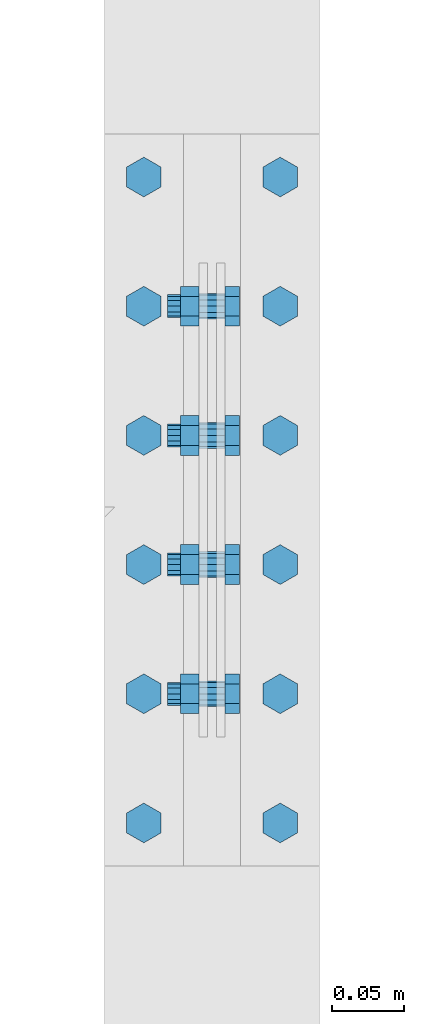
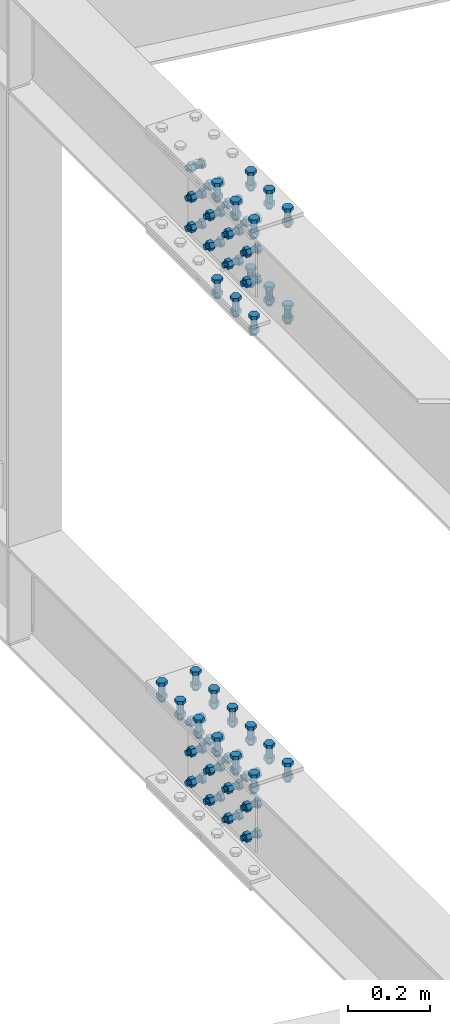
# One storey, part 289 of 3134: 12 mechanical fasteners, 2 elements without a shape of their own.
"""IFC2X3 building model written with IfcOpenShell, lengths in millimetres."""

from ifc_helpers import new_model, si_unit, frame, origin_with_axes, place, context, subcontext, project, spatial, faceted_brep, source, transform, mapped, material, type_object, element, aggregate, save


model = new_model("IFC2X3")

# Units and contexts
model_context = context("Model", 3, precision=1e-05, world=origin_with_axes())
body_context = subcontext(model_context, "Body", "Model", "MODEL_VIEW")
ifc_project = project(units=[si_unit("LENGTHUNIT", "METRE", prefix="MILLI"), si_unit("AREAUNIT", "SQUARE_METRE"), si_unit("VOLUMEUNIT", "CUBIC_METRE"), si_unit("MASSUNIT", "GRAM", prefix="KILO"), si_unit("TIMEUNIT", "SECOND"), si_unit("PLANEANGLEUNIT", "RADIAN"), si_unit("SOLIDANGLEUNIT", "STERADIAN"), si_unit("THERMODYNAMICTEMPERATUREUNIT", "DEGREE_CELSIUS"), si_unit("LUMINOUSINTENSITYUNIT", "LUMEN")], contexts=[model_context])

# Site, building, storey
site_placement = place(None, origin_with_axes())
site = spatial("IfcSite", under=ifc_project, at=site_placement, CompositionType="ELEMENT")
building_placement = place(site_placement, origin_with_axes())
building = spatial("IfcBuilding", under=site, at=building_placement, Name="Undefined", CompositionType="ELEMENT")
storey_placement = place(building_placement, origin_with_axes())
storey = spatial("IfcBuildingStorey", under=building, at=storey_placement, Name="Undefined", CompositionType="ELEMENT", Elevation=0.0)

# Assembly, mechanical fastener
assembly_1_placement = place(storey_placement, origin_with_axes())
assembly_1 = element("IfcElementAssembly", 1, at=assembly_1_placement, inside=storey, Name="300", AssemblyPlace="NOTDEFINED", PredefinedType="RIGID_FRAME")
ifc_material = material(Name="8.8")
mechanical_fastener_type = type_object("IfcMechanicalFastenerType", Name="Bolt assembly")
shared_shape_1 = source(origin_with_axes(), body_context, "Body", "Brep", [
    faceted_brep([(13.856406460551, -19.0499999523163, 0.0), (6.92820323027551, -19.0499999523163, 12.0), (-6.92820323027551, -19.0499999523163, 12.0), (-13.856406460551, -19.0499999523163, 1.69692038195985e-15), (-6.92820323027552, -19.0499999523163, -12.0), (6.9282032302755, -19.0499999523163, -12.0), (6.9282032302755, -9.04999995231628, -12.0), (-6.92820323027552, -9.04999995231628, -12.0), (-13.856406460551, -9.04999995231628, 1.69692038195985e-15), (-6.92820323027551, -9.04999995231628, 12.0), (6.92820323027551, -9.04999995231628, 12.0), (13.856406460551, -9.04999995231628, 0.0), (8.0, -9.04999995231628, 0.0), (6.92820323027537, -9.04999995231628, 4.00000000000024), (3.99999999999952, -9.04999995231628, 6.92820323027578), (-8.29068785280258e-13, -9.04999995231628, 8.0), (-4.00000000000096, -9.04999995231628, 6.92820323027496), (-6.9282032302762, -9.04999995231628, 3.99999999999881), (-8.0, -9.04999995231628, -1.65813757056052e-12), (-6.92820323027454, -9.04999995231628, -4.00000000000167), (-3.99999999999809, -9.04999995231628, -6.92820323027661), (2.47832457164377e-12, -9.04999995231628, -8.0), (4.00000000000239, -9.04999995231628, -6.92820323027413), (6.92820323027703, -9.04999995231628, -3.99999999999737), (6.92820323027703, 30.9500000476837, -3.99999999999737), (4.00000000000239, 30.9500000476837, -6.92820323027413), (2.47832457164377e-12, 30.9500000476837, -8.0), (-3.99999999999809, 30.9500000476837, -6.92820323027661), (-6.92820323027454, 30.9500000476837, -4.00000000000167), (-8.0, 30.9500000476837, -1.65813757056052e-12), (-6.9282032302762, 30.9500000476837, 3.99999999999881), (-4.00000000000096, 30.9500000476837, 6.92820323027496), (-8.29068785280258e-13, 30.9500000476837, 8.0), (3.99999999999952, 30.9500000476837, 6.92820323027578), (6.92820323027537, 30.9500000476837, 4.00000000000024), (8.0, 30.9500000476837, 0.0), (13.856406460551, 9.04999995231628, 0.0), (6.92820323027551, 9.04999995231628, 12.0), (-6.92820323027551, 9.04999995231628, 12.0), (-13.856406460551, 9.04999995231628, 1.69692038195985e-15), (-6.92820323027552, 9.04999995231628, -12.0), (6.9282032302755, 9.04999995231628, -12.0), (6.9282032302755, 22.0499999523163, -12.0), (-6.92820323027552, 22.0499999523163, -12.0), (-13.856406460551, 22.0499999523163, 1.69692038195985e-15), (-6.92820323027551, 22.0499999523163, 12.0), (6.92820323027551, 22.0499999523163, 12.0), (13.856406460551, 22.0499999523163, 0.0)], [[[0, 1, 2, 3, 4, 5]], [[6, 7, 8, 9, 10, 11]], [[0, 11, 10, 1]], [[1, 10, 9, 2]], [[2, 9, 8, 3]], [[3, 8, 7, 4]], [[4, 7, 6, 5]], [[5, 6, 11, 0]], [[12, 13, 14, 15, 16, 17, 18, 19, 20, 21, 22, 23]], [[24, 25, 26, 27, 28, 29, 30, 31, 32, 33, 34, 35]], [[12, 35, 34, 13]], [[13, 34, 33, 14]], [[14, 33, 32, 15]], [[15, 32, 31, 16]], [[16, 31, 30, 17]], [[17, 30, 29, 18]], [[18, 29, 28, 19]], [[19, 28, 27, 20]], [[20, 27, 26, 21]], [[21, 26, 25, 22]], [[22, 25, 24, 23]], [[23, 24, 35, 12]], [[36, 37, 38, 39, 40, 41]], [[42, 43, 44, 45, 46, 47]], [[36, 47, 46, 37]], [[37, 46, 45, 38]], [[38, 45, 44, 39]], [[39, 44, 43, 40]], [[40, 43, 42, 41]], [[41, 42, 47, 36]]]),
    faceted_brep([(9.0, -8.94999995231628, 0.0), (7.79422863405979, -8.94999995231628, 4.50000000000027), (4.49999999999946, -8.94999995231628, 7.79422863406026), (-9.3270238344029e-13, -8.94999995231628, 9.0), (-4.50000000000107, -8.94999995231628, 7.79422863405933), (-7.79422863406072, -8.94999995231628, 4.49999999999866), (-9.0, -8.94999995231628, -1.86540476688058e-12), (-7.79422863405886, -8.94999995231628, -4.50000000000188), (-4.49999999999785, -8.94999995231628, -7.79422863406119), (2.78811514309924e-12, -8.94999995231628, -9.0), (4.50000000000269, -8.94999995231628, -7.7942286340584), (7.79422863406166, -8.94999995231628, -4.49999999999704), (7.79422863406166, -2.94999995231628, -4.49999999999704), (4.50000000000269, -2.94999995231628, -7.7942286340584), (2.78811514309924e-12, -2.94999995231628, -9.0), (-4.49999999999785, -2.94999995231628, -7.79422863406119), (-7.79422863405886, -2.94999995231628, -4.50000000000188), (-9.0, -2.94999995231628, -1.86540476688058e-12), (-7.79422863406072, -2.94999995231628, 4.49999999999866), (-4.50000000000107, -2.94999995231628, 7.79422863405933), (-9.3270238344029e-13, -2.94999995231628, 9.0), (4.49999999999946, -2.94999995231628, 7.79422863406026), (7.79422863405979, -2.94999995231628, 4.50000000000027), (9.0, -2.94999995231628, 0.0), (9.0, -3.04999995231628, 0.0), (7.79422863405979, -3.04999995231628, 4.50000000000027), (4.49999999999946, -3.04999995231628, 7.79422863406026), (-9.3270238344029e-13, -3.04999995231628, 9.0), (-4.50000000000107, -3.04999995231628, 7.79422863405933), (-7.79422863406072, -3.04999995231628, 4.49999999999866), (-9.0, -3.04999995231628, -1.86540476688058e-12), (-7.79422863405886, -3.04999995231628, -4.50000000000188), (-4.49999999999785, -3.04999995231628, -7.79422863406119), (2.78811514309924e-12, -3.04999995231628, -9.0), (4.50000000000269, -3.04999995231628, -7.7942286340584), (7.79422863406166, -3.04999995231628, -4.49999999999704), (7.79422863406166, 3.04999995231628, -4.49999999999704), (4.50000000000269, 3.04999995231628, -7.7942286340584), (2.78811514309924e-12, 3.04999995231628, -9.0), (-4.49999999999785, 3.04999995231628, -7.79422863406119), (-7.79422863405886, 3.04999995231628, -4.50000000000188), (-9.0, 3.04999995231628, -1.86540476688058e-12), (-7.79422863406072, 3.04999995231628, 4.49999999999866), (-4.50000000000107, 3.04999995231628, 7.79422863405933), (-9.3270238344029e-13, 3.04999995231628, 9.0), (4.49999999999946, 3.04999995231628, 7.79422863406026), (7.79422863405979, 3.04999995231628, 4.50000000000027), (9.0, 3.04999995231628, 0.0), (9.0, 2.95000000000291, 0.0), (7.79422863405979, 2.95000000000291, 4.50000000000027), (4.49999999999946, 2.95000000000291, 7.79422863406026), (-9.3270238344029e-13, 2.95000000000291, 9.0), (-4.50000000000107, 2.95000000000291, 7.79422863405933), (-7.79422863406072, 2.95000000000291, 4.49999999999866), (-9.0, 2.95000000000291, -1.86540476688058e-12), (-7.79422863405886, 2.95000000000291, -4.50000000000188), (-4.49999999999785, 2.95000000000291, -7.79422863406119), (2.78811514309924e-12, 2.95000000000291, -9.0), (4.50000000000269, 2.95000000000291, -7.7942286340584), (7.79422863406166, 2.95000000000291, -4.49999999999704), (7.79422863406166, 9.04999995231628, -4.49999999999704), (4.50000000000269, 9.04999995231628, -7.7942286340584), (2.78811514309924e-12, 9.04999995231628, -9.0), (-4.49999999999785, 9.04999995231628, -7.79422863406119), (-7.79422863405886, 9.04999995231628, -4.50000000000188), (-9.0, 9.04999995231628, -1.86540476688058e-12), (-7.79422863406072, 9.04999995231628, 4.49999999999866), (-4.50000000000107, 9.04999995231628, 7.79422863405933), (-9.3270238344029e-13, 9.04999995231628, 9.0), (4.49999999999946, 9.04999995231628, 7.79422863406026), (7.79422863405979, 9.04999995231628, 4.50000000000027), (9.0, 9.04999995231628, 0.0)], [[[0, 1, 2, 3, 4, 5, 6, 7, 8, 9, 10, 11]], [[12, 13, 14, 15, 16, 17, 18, 19, 20, 21, 22, 23]], [[0, 23, 22, 1]], [[1, 22, 21, 2]], [[2, 21, 20, 3]], [[3, 20, 19, 4]], [[4, 19, 18, 5]], [[5, 18, 17, 6]], [[6, 17, 16, 7]], [[7, 16, 15, 8]], [[8, 15, 14, 9]], [[9, 14, 13, 10]], [[10, 13, 12, 11]], [[11, 12, 23, 0]], [[24, 25, 26, 27, 28, 29, 30, 31, 32, 33, 34, 35]], [[36, 37, 38, 39, 40, 41, 42, 43, 44, 45, 46, 47]], [[24, 47, 46, 25]], [[25, 46, 45, 26]], [[26, 45, 44, 27]], [[27, 44, 43, 28]], [[28, 43, 42, 29]], [[29, 42, 41, 30]], [[30, 41, 40, 31]], [[31, 40, 39, 32]], [[32, 39, 38, 33]], [[33, 38, 37, 34]], [[34, 37, 36, 35]], [[35, 36, 47, 24]], [[48, 49, 50, 51, 52, 53, 54, 55, 56, 57, 58, 59]], [[60, 61, 62, 63, 64, 65, 66, 67, 68, 69, 70, 71]], [[48, 71, 70, 49]], [[49, 70, 69, 50]], [[50, 69, 68, 51]], [[51, 68, 67, 52]], [[52, 67, 66, 53]], [[53, 66, 65, 54]], [[54, 65, 64, 55]], [[55, 64, 63, 56]], [[56, 63, 62, 57]], [[57, 62, 61, 58]], [[58, 61, 60, 59]], [[59, 60, 71, 48]]]),
])
mechanical_fastener_1_placement = place(assembly_1_placement, frame((55875.0, 52220.1, 4088.5), z_axis=(0.0, 0.0, 1.0), x_axis=(0.0, 1.0, 0.0)))
mechanical_fastener_1 = element("IfcMechanicalFastener", 2, at=mechanical_fastener_1_placement, type_object=mechanical_fastener_type, material=ifc_material, Name="Bolt assembly", NominalDiameter=16.0, NominalLength=40.0, context=body_context, shape_type="MappedRepresentation", body=[
    mapped(shared_shape_1, transform((0.0, 0.0, -90.0))),
    mapped(shared_shape_1, transform((90.0, 0.0, -90.0))),
    mapped(shared_shape_1, transform((0.0, 0.0, 0.0))),
    mapped(shared_shape_1, transform((90.0, 0.0, 0.0))),
    mapped(shared_shape_1, transform((0.0, 0.0, 90.0))),
    mapped(shared_shape_1, transform((90.0, 0.0, 90.0))),
])

# Assembly, mechanical fasteners
assembly_2_placement = place(storey_placement, origin_with_axes())
assembly_2 = element("IfcElementAssembly", 3, at=assembly_2_placement, inside=storey, Name="300", AssemblyPlace="NOTDEFINED", PredefinedType="RIGID_FRAME")
mechanical_fastener_2_placement = place(assembly_2_placement, frame((55875.0, 52040.1, 4088.5), z_axis=(0.0, 0.0, 1.0), x_axis=(0.0, 1.0, 0.0)))
mechanical_fastener_2 = element("IfcMechanicalFastener", 4, at=mechanical_fastener_2_placement, type_object=mechanical_fastener_type, material=ifc_material, Name="Bolt assembly", NominalDiameter=16.0, NominalLength=40.0, context=body_context, shape_type="MappedRepresentation", body=[
    mapped(shared_shape_1, transform((0.0, 0.0, -90.0))),
    mapped(shared_shape_1, transform((90.0, 0.0, -90.0))),
    mapped(shared_shape_1, transform((0.0, 0.0, 0.0))),
    mapped(shared_shape_1, transform((90.0, 0.0, 0.0))),
    mapped(shared_shape_1, transform((0.0, 0.0, 90.0))),
    mapped(shared_shape_1, transform((90.0, 0.0, 90.0))),
])
mechanical_fastener_3_placement = place(assembly_2_placement, frame((55875.0, 52040.1, 5741.5), z_axis=(0.0, 0.0, 1.0), x_axis=(0.0, 1.0, 0.0)))
mechanical_fastener_3 = element("IfcMechanicalFastener", 5, at=mechanical_fastener_3_placement, type_object=mechanical_fastener_type, material=ifc_material, Name="Bolt assembly", NominalDiameter=16.0, NominalLength=40.0, context=body_context, shape_type="MappedRepresentation", body=[
    mapped(shared_shape_1, transform((0.0, 0.0, -90.0))),
    mapped(shared_shape_1, transform((90.0, 0.0, -90.0))),
    mapped(shared_shape_1, transform((0.0, 0.0, 0.0))),
    mapped(shared_shape_1, transform((90.0, 0.0, 0.0))),
    mapped(shared_shape_1, transform((0.0, 0.0, 90.0))),
    mapped(shared_shape_1, transform((90.0, 0.0, 90.0))),
])

# Mechanical fastener
mechanical_fastener_4_placement = place(assembly_1_placement, frame((55875.0, 52220.1, 5741.5), z_axis=(0.0, 0.0, 1.0), x_axis=(0.0, 1.0, 0.0)))
mechanical_fastener_4 = element("IfcMechanicalFastener", 6, at=mechanical_fastener_4_placement, type_object=mechanical_fastener_type, material=ifc_material, Name="Bolt assembly", NominalDiameter=16.0, NominalLength=40.0, context=body_context, shape_type="MappedRepresentation", body=[
    mapped(shared_shape_1, transform((0.0, 0.0, -90.0))),
    mapped(shared_shape_1, transform((90.0, 0.0, -90.0))),
    mapped(shared_shape_1, transform((0.0, 0.0, 0.0))),
    mapped(shared_shape_1, transform((90.0, 0.0, 0.0))),
    mapped(shared_shape_1, transform((0.0, 0.0, 90.0))),
    mapped(shared_shape_1, transform((90.0, 0.0, 90.0))),
])

shared_shape_2 = source(origin_with_axes(), body_context, "Body", "Brep", [
    faceted_brep([(13.856406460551, -29.1999998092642, 0.0), (6.92820323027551, -29.1999998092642, 12.0), (-6.92820323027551, -29.1999998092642, 12.0), (-13.856406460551, -29.1999998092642, 1.69692038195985e-15), (-6.92820323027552, -29.1999998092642, -12.0), (6.9282032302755, -29.1999998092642, -12.0), (6.9282032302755, -19.199990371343, -12.0), (-6.92820323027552, -19.199990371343, -12.0), (-13.856406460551, -19.199990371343, 1.69692038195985e-15), (-6.92820323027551, -19.199990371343, 12.0), (6.92820323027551, -19.199990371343, 12.0), (13.856406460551, -19.199990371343, 0.0), (8.0, -19.1999998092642, 0.0), (6.92820323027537, -19.1999998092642, 4.00000000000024), (3.99999999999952, -19.1999998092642, 6.92820323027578), (-8.29068785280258e-13, -19.1999998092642, 8.0), (-4.00000000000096, -19.1999998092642, 6.92820323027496), (-6.9282032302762, -19.1999998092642, 3.99999999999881), (-8.0, -19.1999998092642, -1.65813757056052e-12), (-6.92820323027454, -19.1999998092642, -4.00000000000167), (-3.99999999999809, -19.1999998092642, -6.92820323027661), (2.47832457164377e-12, -19.1999998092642, -8.0), (4.00000000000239, -19.1999998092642, -6.92820323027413), (6.92820323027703, -19.1999998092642, -3.99999999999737), (6.92820323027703, 30.8000001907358, -3.99999999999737), (4.00000000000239, 30.8000001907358, -6.92820323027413), (2.47832457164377e-12, 30.8000001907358, -8.0), (-3.99999999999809, 30.8000001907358, -6.92820323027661), (-6.92820323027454, 30.8000001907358, -4.00000000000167), (-8.0, 30.8000001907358, -1.65813757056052e-12), (-6.9282032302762, 30.8000001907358, 3.99999999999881), (-4.00000000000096, 30.8000001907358, 6.92820323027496), (-8.29068785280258e-13, 30.8000001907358, 8.0), (3.99999999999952, 30.8000001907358, 6.92820323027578), (6.92820323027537, 30.8000001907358, 4.00000000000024), (8.0, 30.8000001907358, 0.0), (13.856406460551, 9.99999995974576, 0.0), (6.92820323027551, 9.99999995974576, 12.0), (-6.92820323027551, 9.99999995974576, 12.0), (-13.856406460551, 9.99999995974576, 1.69692038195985e-15), (-6.92820323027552, 9.99999995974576, -12.0), (6.9282032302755, 9.99999995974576, -12.0), (6.9282032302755, 22.9999913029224, -12.0), (-6.92820323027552, 22.9999913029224, -12.0), (-13.856406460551, 22.9999913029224, 1.69692038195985e-15), (-6.92820323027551, 22.9999913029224, 12.0), (6.92820323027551, 22.9999913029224, 12.0), (13.856406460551, 22.9999913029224, 0.0)], [[[0, 1, 2, 3, 4, 5]], [[6, 7, 8, 9, 10, 11]], [[0, 11, 10, 1]], [[1, 10, 9, 2]], [[2, 9, 8, 3]], [[3, 8, 7, 4]], [[4, 7, 6, 5]], [[5, 6, 11, 0]], [[12, 13, 14, 15, 16, 17, 18, 19, 20, 21, 22, 23]], [[24, 25, 26, 27, 28, 29, 30, 31, 32, 33, 34, 35]], [[12, 35, 34, 13]], [[13, 34, 33, 14]], [[14, 33, 32, 15]], [[15, 32, 31, 16]], [[16, 31, 30, 17]], [[17, 30, 29, 18]], [[18, 29, 28, 19]], [[19, 28, 27, 20]], [[20, 27, 26, 21]], [[21, 26, 25, 22]], [[22, 25, 24, 23]], [[23, 24, 35, 12]], [[36, 37, 38, 39, 40, 41]], [[42, 43, 44, 45, 46, 47]], [[36, 47, 46, 37]], [[37, 46, 45, 38]], [[38, 45, 44, 39]], [[39, 44, 43, 40]], [[40, 43, 42, 41]], [[41, 42, 47, 36]]]),
    faceted_brep([(9.0, -19.0999998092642, 0.0), (7.79422863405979, -19.0999998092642, 4.50000000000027), (4.49999999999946, -19.0999998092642, 7.79422863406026), (-9.3270238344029e-13, -19.0999998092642, 9.0), (-4.50000000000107, -19.0999998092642, 7.79422863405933), (-7.79422863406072, -19.0999998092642, 4.49999999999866), (-9.0, -19.0999998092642, -1.86540476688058e-12), (-7.79422863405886, -19.0999998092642, -4.50000000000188), (-4.49999999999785, -19.0999998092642, -7.79422863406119), (2.78811514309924e-12, -19.0999998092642, -9.0), (4.50000000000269, -19.0999998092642, -7.7942286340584), (7.79422863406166, -19.0999998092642, -4.49999999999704), (7.79422863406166, -9.09999037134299, -4.49999999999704), (4.50000000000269, -9.09999037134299, -7.7942286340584), (2.78811514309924e-12, -9.09999037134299, -9.0), (-4.49999999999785, -9.09999037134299, -7.79422863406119), (-7.79422863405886, -9.09999037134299, -4.50000000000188), (-9.0, -9.09999037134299, -1.86540476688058e-12), (-7.79422863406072, -9.09999037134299, 4.49999999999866), (-4.50000000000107, -9.09999037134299, 7.79422863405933), (-9.3270238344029e-13, -9.09999037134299, 9.0), (4.49999999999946, -9.09999037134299, 7.79422863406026), (7.79422863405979, -9.09999037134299, 4.50000000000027), (9.0, -9.09999037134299, 0.0), (9.0, -9.20000008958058, 0.0), (7.79422863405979, -9.20000008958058, 4.50000000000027), (4.49999999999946, -9.20000008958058, 7.79422863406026), (-9.3270238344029e-13, -9.20000008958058, 9.0), (-4.50000000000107, -9.20000008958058, 7.79422863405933), (-7.79422863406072, -9.20000008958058, 4.49999999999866), (-9.0, -9.20000008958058, -1.86540476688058e-12), (-7.79422863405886, -9.20000008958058, -4.50000000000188), (-4.49999999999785, -9.20000008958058, -7.79422863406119), (2.78811514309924e-12, -9.20000008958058, -9.0), (4.50000000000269, -9.20000008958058, -7.7942286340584), (7.79422863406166, -9.20000008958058, -4.49999999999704), (7.79422863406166, -3.46568413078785e-07, -4.49999999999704), (4.50000000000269, -3.46568413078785e-07, -7.7942286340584), (2.78811514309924e-12, -3.46568413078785e-07, -9.0), (-4.49999999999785, -3.46568413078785e-07, -7.79422863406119), (-7.79422863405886, -3.46568413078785e-07, -4.50000000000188), (-9.0, -3.46568413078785e-07, -1.86540476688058e-12), (-7.79422863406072, -3.46568413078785e-07, 4.49999999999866), (-4.50000000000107, -3.46568413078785e-07, 7.79422863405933), (-9.3270238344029e-13, -3.46568413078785e-07, 9.0), (4.49999999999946, -3.46568413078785e-07, 7.79422863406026), (7.79422863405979, -3.46568413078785e-07, 4.50000000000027), (9.0, -3.46568413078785e-07, 0.0), (9.0, -0.1, 0.0), (7.79422863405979, -0.1, 4.50000000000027), (4.49999999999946, -0.1, 7.79422863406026), (-9.3270238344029e-13, -0.1, 9.0), (-4.50000000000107, -0.1, 7.79422863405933), (-7.79422863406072, -0.1, 4.49999999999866), (-9.0, -0.1, -1.86540476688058e-12), (-7.79422863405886, -0.1, -4.50000000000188), (-4.49999999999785, -0.1, -7.79422863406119), (2.78811514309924e-12, -0.1, -9.0), (4.50000000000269, -0.1, -7.7942286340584), (7.79422863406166, -0.1, -4.49999999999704), (7.79422863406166, 9.99999995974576, -4.49999999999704), (4.50000000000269, 9.99999995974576, -7.7942286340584), (2.78811514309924e-12, 9.99999995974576, -9.0), (-4.49999999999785, 9.99999995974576, -7.79422863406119), (-7.79422863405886, 9.99999995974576, -4.50000000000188), (-9.0, 9.99999995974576, -1.86540476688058e-12), (-7.79422863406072, 9.99999995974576, 4.49999999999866), (-4.50000000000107, 9.99999995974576, 7.79422863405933), (-9.3270238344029e-13, 9.99999995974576, 9.0), (4.49999999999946, 9.99999995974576, 7.79422863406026), (7.79422863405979, 9.99999995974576, 4.50000000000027), (9.0, 9.99999995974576, 0.0)], [[[0, 1, 2, 3, 4, 5, 6, 7, 8, 9, 10, 11]], [[12, 13, 14, 15, 16, 17, 18, 19, 20, 21, 22, 23]], [[0, 23, 22, 1]], [[1, 22, 21, 2]], [[2, 21, 20, 3]], [[3, 20, 19, 4]], [[4, 19, 18, 5]], [[5, 18, 17, 6]], [[6, 17, 16, 7]], [[7, 16, 15, 8]], [[8, 15, 14, 9]], [[9, 14, 13, 10]], [[10, 13, 12, 11]], [[11, 12, 23, 0]], [[24, 25, 26, 27, 28, 29, 30, 31, 32, 33, 34, 35]], [[36, 37, 38, 39, 40, 41, 42, 43, 44, 45, 46, 47]], [[24, 47, 46, 25]], [[25, 46, 45, 26]], [[26, 45, 44, 27]], [[27, 44, 43, 28]], [[28, 43, 42, 29]], [[29, 42, 41, 30]], [[30, 41, 40, 31]], [[31, 40, 39, 32]], [[32, 39, 38, 33]], [[33, 38, 37, 34]], [[34, 37, 36, 35]], [[35, 36, 47, 24]], [[48, 49, 50, 51, 52, 53, 54, 55, 56, 57, 58, 59]], [[60, 61, 62, 63, 64, 65, 66, 67, 68, 69, 70, 71]], [[48, 71, 70, 49]], [[49, 70, 69, 50]], [[50, 69, 68, 51]], [[51, 68, 67, 52]], [[52, 67, 66, 53]], [[53, 66, 65, 54]], [[54, 65, 64, 55]], [[55, 64, 63, 56]], [[56, 63, 62, 57]], [[57, 62, 61, 58]], [[58, 61, 60, 59]], [[59, 60, 71, 48]]]),
])
mechanical_fastener_5_placement = place(assembly_1_placement, frame((55922.5, 52220.1, 4227.80000019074), z_axis=(-1.0, 0.0, 0.0), x_axis=(0.0, 1.0, 0.0)))
mechanical_fastener_5 = element("IfcMechanicalFastener", 7, at=mechanical_fastener_5_placement, type_object=mechanical_fastener_type, material=ifc_material, Name="Bolt assembly", NominalDiameter=16.0, NominalLength=50.0, context=body_context, shape_type="MappedRepresentation", body=[
    mapped(shared_shape_2, transform((0.0, 0.0, 0.0))),
    mapped(shared_shape_2, transform((90.0, 0.0, 0.0))),
    mapped(shared_shape_2, transform((180.0, 0.0, 0.0))),
])

mechanical_fastener_6_placement = place(assembly_2_placement, frame((55922.5, 51950.1, 4227.80000019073), z_axis=(-1.0, 0.0, 0.0), x_axis=(0.0, 1.0, 0.0)))
mechanical_fastener_6 = element("IfcMechanicalFastener", 8, at=mechanical_fastener_6_placement, type_object=mechanical_fastener_type, material=ifc_material, Name="Bolt assembly", NominalDiameter=16.0, NominalLength=50.0, context=body_context, shape_type="MappedRepresentation", body=[
    mapped(shared_shape_2, transform((0.0, 0.0, 0.0))),
    mapped(shared_shape_2, transform((90.0, 0.0, 0.0))),
    mapped(shared_shape_2, transform((180.0, 0.0, 0.0))),
])

mechanical_fastener_7_placement = place(assembly_1_placement, frame((55827.5, 52220.1, 4227.80000019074), z_axis=(-1.0, 0.0, 0.0), x_axis=(0.0, 1.0, 0.0)))
mechanical_fastener_7 = element("IfcMechanicalFastener", 9, at=mechanical_fastener_7_placement, type_object=mechanical_fastener_type, material=ifc_material, Name="Bolt assembly", NominalDiameter=16.0, NominalLength=50.0, context=body_context, shape_type="MappedRepresentation", body=[
    mapped(shared_shape_2, transform((0.0, 0.0, 0.0))),
    mapped(shared_shape_2, transform((90.0, 0.0, 0.0))),
    mapped(shared_shape_2, transform((180.0, 0.0, 0.0))),
])

aggregate(assembly_1, [mechanical_fastener_5, mechanical_fastener_7, mechanical_fastener_1, mechanical_fastener_4])

mechanical_fastener_8_placement = place(assembly_2_placement, frame((55827.5, 51950.1, 4227.80000019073), z_axis=(-1.0, 0.0, 0.0), x_axis=(0.0, 1.0, 0.0)))
mechanical_fastener_8 = element("IfcMechanicalFastener", 10, at=mechanical_fastener_8_placement, type_object=mechanical_fastener_type, material=ifc_material, Name="Bolt assembly", NominalDiameter=16.0, NominalLength=50.0, context=body_context, shape_type="MappedRepresentation", body=[
    mapped(shared_shape_2, transform((0.0, 0.0, 0.0))),
    mapped(shared_shape_2, transform((90.0, 0.0, 0.0))),
    mapped(shared_shape_2, transform((180.0, 0.0, 0.0))),
])

mechanical_fastener_9_placement = place(assembly_2_placement, frame((55922.5, 51950.1, 5880.80000019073), z_axis=(-1.0, 0.0, 0.0), x_axis=(0.0, 1.0, 0.0)))
mechanical_fastener_9 = element("IfcMechanicalFastener", 11, at=mechanical_fastener_9_placement, type_object=mechanical_fastener_type, material=ifc_material, Name="Bolt assembly", NominalDiameter=16.0, NominalLength=50.0, context=body_context, shape_type="MappedRepresentation", body=[
    mapped(shared_shape_2, transform((0.0, 0.0, 0.0))),
    mapped(shared_shape_2, transform((90.0, 0.0, 0.0))),
    mapped(shared_shape_2, transform((180.0, 0.0, 0.0))),
])

mechanical_fastener_10_placement = place(assembly_2_placement, frame((55827.5, 51950.1, 5880.80000019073), z_axis=(-1.0, 0.0, 0.0), x_axis=(0.0, 1.0, 0.0)))
mechanical_fastener_10 = element("IfcMechanicalFastener", 12, at=mechanical_fastener_10_placement, type_object=mechanical_fastener_type, material=ifc_material, Name="Bolt assembly", NominalDiameter=16.0, NominalLength=50.0, context=body_context, shape_type="MappedRepresentation", body=[
    mapped(shared_shape_2, transform((0.0, 0.0, 0.0))),
    mapped(shared_shape_2, transform((90.0, 0.0, 0.0))),
    mapped(shared_shape_2, transform((180.0, 0.0, 0.0))),
])

shared_shape_3 = source(origin_with_axes(), body_context, "Body", "Brep", [
    faceted_brep([(13.856406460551, -20.0, 0.0), (6.92820323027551, -20.0, 12.0), (-6.92820323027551, -20.0, 12.0), (-13.856406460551, -20.0, 1.69692038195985e-15), (-6.92820323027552, -20.0, -12.0), (6.9282032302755, -20.0, -12.0), (6.9282032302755, -10.0, -12.0), (-6.92820323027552, -10.0, -12.0), (-13.856406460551, -10.0, 1.69692038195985e-15), (-6.92820323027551, -10.0, 12.0), (6.92820323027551, -10.0, 12.0), (13.856406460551, -10.0, 0.0), (8.0, -10.0, 0.0), (6.92820323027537, -10.0, 4.00000000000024), (3.99999999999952, -10.0, 6.92820323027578), (-8.29068785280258e-13, -10.0, 8.0), (-4.00000000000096, -10.0, 6.92820323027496), (-6.9282032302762, -10.0, 3.99999999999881), (-8.0, -10.0, -1.65813757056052e-12), (-6.92820323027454, -10.0, -4.00000000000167), (-3.99999999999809, -10.0, -6.92820323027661), (2.47832457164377e-12, -10.0, -8.0), (4.00000000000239, -10.0, -6.92820323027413), (6.92820323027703, -10.0, -3.99999999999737), (6.92820323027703, 40.0, -3.99999999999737), (4.00000000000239, 40.0, -6.92820323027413), (2.47832457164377e-12, 40.0, -8.0), (-3.99999999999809, 40.0, -6.92820323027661), (-6.92820323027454, 40.0, -4.00000000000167), (-8.0, 40.0, -1.65813757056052e-12), (-6.9282032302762, 40.0, 3.99999999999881), (-4.00000000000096, 40.0, 6.92820323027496), (-8.29068785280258e-13, 40.0, 8.0), (3.99999999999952, 40.0, 6.92820323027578), (6.92820323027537, 40.0, 4.00000000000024), (8.0, 40.0, 0.0), (13.856406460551, 19.1999998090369, 0.0), (6.92820323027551, 19.1999998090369, 12.0), (-6.92820323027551, 19.1999998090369, 12.0), (-13.856406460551, 19.1999998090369, 1.69692038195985e-15), (-6.92820323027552, 19.1999998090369, -12.0), (6.9282032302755, 19.1999998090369, -12.0), (6.9282032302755, 32.1999998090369, -12.0), (-6.92820323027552, 32.1999998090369, -12.0), (-13.856406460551, 32.1999998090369, 1.69692038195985e-15), (-6.92820323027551, 32.1999998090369, 12.0), (6.92820323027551, 32.1999998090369, 12.0), (13.856406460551, 32.1999998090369, 0.0)], [[[0, 1, 2, 3, 4, 5]], [[6, 7, 8, 9, 10, 11]], [[0, 11, 10, 1]], [[1, 10, 9, 2]], [[2, 9, 8, 3]], [[3, 8, 7, 4]], [[4, 7, 6, 5]], [[5, 6, 11, 0]], [[12, 13, 14, 15, 16, 17, 18, 19, 20, 21, 22, 23]], [[24, 25, 26, 27, 28, 29, 30, 31, 32, 33, 34, 35]], [[12, 35, 34, 13]], [[13, 34, 33, 14]], [[14, 33, 32, 15]], [[15, 32, 31, 16]], [[16, 31, 30, 17]], [[17, 30, 29, 18]], [[18, 29, 28, 19]], [[19, 28, 27, 20]], [[20, 27, 26, 21]], [[21, 26, 25, 22]], [[22, 25, 24, 23]], [[23, 24, 35, 12]], [[36, 37, 38, 39, 40, 41]], [[42, 43, 44, 45, 46, 47]], [[36, 47, 46, 37]], [[37, 46, 45, 38]], [[38, 45, 44, 39]], [[39, 44, 43, 40]], [[40, 43, 42, 41]], [[41, 42, 47, 36]]]),
    faceted_brep([(9.0, 9.09999980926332, 0.0), (7.79422863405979, 9.09999980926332, 4.50000000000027), (4.49999999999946, 9.09999980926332, 7.79422863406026), (-9.3270238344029e-13, 9.09999980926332, 9.0), (-4.50000000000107, 9.09999980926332, 7.79422863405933), (-7.79422863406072, 9.09999980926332, 4.49999999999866), (-9.0, 9.09999980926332, -1.86540476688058e-12), (-7.79422863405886, 9.09999980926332, -4.50000000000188), (-4.49999999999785, 9.09999980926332, -7.79422863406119), (2.78811514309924e-12, 9.09999980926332, -9.0), (4.50000000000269, 9.09999980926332, -7.7942286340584), (7.79422863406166, 9.09999980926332, -4.49999999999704), (7.79422863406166, 19.1999998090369, -4.49999999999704), (4.50000000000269, 19.1999998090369, -7.7942286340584), (2.78811514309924e-12, 19.1999998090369, -9.0), (-4.49999999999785, 19.1999998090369, -7.79422863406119), (-7.79422863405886, 19.1999998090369, -4.50000000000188), (-9.0, 19.1999998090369, -1.86540476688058e-12), (-7.79422863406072, 19.1999998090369, 4.49999999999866), (-4.50000000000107, 19.1999998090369, 7.79422863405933), (-9.3270238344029e-13, 19.1999998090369, 9.0), (4.49999999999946, 19.1999998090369, 7.79422863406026), (7.79422863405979, 19.1999998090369, 4.50000000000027), (9.0, 19.1999998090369, 0.0), (9.0, -3.46568413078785e-07, 0.0), (7.79422863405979, -3.46568413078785e-07, 4.50000000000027), (4.49999999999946, -3.46568413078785e-07, 7.79422863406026), (-9.3270238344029e-13, -3.46568413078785e-07, 9.0), (-4.50000000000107, -3.46568413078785e-07, 7.79422863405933), (-7.79422863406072, -3.46568413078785e-07, 4.49999999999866), (-9.0, -3.46568413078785e-07, -1.86540476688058e-12), (-7.79422863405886, -3.46568413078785e-07, -4.50000000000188), (-4.49999999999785, -3.46568413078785e-07, -7.79422863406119), (2.78811514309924e-12, -3.46568413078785e-07, -9.0), (4.50000000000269, -3.46568413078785e-07, -7.7942286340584), (7.79422863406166, -3.46568413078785e-07, -4.49999999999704), (7.79422863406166, 9.19999980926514, -4.49999999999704), (4.50000000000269, 9.19999980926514, -7.7942286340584), (2.78811514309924e-12, 9.19999980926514, -9.0), (-4.49999999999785, 9.19999980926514, -7.79422863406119), (-7.79422863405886, 9.19999980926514, -4.50000000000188), (-9.0, 9.19999980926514, -1.86540476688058e-12), (-7.79422863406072, 9.19999980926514, 4.49999999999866), (-4.50000000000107, 9.19999980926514, 7.79422863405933), (-9.3270238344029e-13, 9.19999980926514, 9.0), (4.49999999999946, 9.19999980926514, 7.79422863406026), (7.79422863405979, 9.19999980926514, 4.50000000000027), (9.0, 9.19999980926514, 0.0), (9.0, -9.89999997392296, 0.0), (7.79422863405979, -9.89999997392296, 4.50000000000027), (4.49999999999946, -9.89999997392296, 7.79422863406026), (-9.3270238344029e-13, -9.89999997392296, 9.0), (-4.50000000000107, -9.89999997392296, 7.79422863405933), (-7.79422863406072, -9.89999997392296, 4.49999999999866), (-9.0, -9.89999997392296, -1.86540476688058e-12), (-7.79422863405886, -9.89999997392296, -4.50000000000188), (-4.49999999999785, -9.89999997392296, -7.79422863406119), (2.78811514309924e-12, -9.89999997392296, -9.0), (4.50000000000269, -9.89999997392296, -7.7942286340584), (7.79422863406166, -9.89999997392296, -4.49999999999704), (7.79422863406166, 0.100000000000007, -4.49999999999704), (4.50000000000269, 0.100000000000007, -7.7942286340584), (2.78811514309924e-12, 0.100000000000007, -9.0), (-4.49999999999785, 0.100000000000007, -7.79422863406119), (-7.79422863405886, 0.100000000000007, -4.50000000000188), (-9.0, 0.100000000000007, -1.86540476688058e-12), (-7.79422863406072, 0.100000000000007, 4.49999999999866), (-4.50000000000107, 0.100000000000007, 7.79422863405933), (-9.3270238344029e-13, 0.100000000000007, 9.0), (4.49999999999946, 0.100000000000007, 7.79422863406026), (7.79422863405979, 0.100000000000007, 4.50000000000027), (9.0, 0.100000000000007, 0.0)], [[[0, 1, 2, 3, 4, 5, 6, 7, 8, 9, 10, 11]], [[12, 13, 14, 15, 16, 17, 18, 19, 20, 21, 22, 23]], [[0, 23, 22, 1]], [[1, 22, 21, 2]], [[2, 21, 20, 3]], [[3, 20, 19, 4]], [[4, 19, 18, 5]], [[5, 18, 17, 6]], [[6, 17, 16, 7]], [[7, 16, 15, 8]], [[8, 15, 14, 9]], [[9, 14, 13, 10]], [[10, 13, 12, 11]], [[11, 12, 23, 0]], [[24, 25, 26, 27, 28, 29, 30, 31, 32, 33, 34, 35]], [[36, 37, 38, 39, 40, 41, 42, 43, 44, 45, 46, 47]], [[24, 47, 46, 25]], [[25, 46, 45, 26]], [[26, 45, 44, 27]], [[27, 44, 43, 28]], [[28, 43, 42, 29]], [[29, 42, 41, 30]], [[30, 41, 40, 31]], [[31, 40, 39, 32]], [[32, 39, 38, 33]], [[33, 38, 37, 34]], [[34, 37, 36, 35]], [[35, 36, 47, 24]], [[48, 49, 50, 51, 52, 53, 54, 55, 56, 57, 58, 59]], [[60, 61, 62, 63, 64, 65, 66, 67, 68, 69, 70, 71]], [[48, 71, 70, 49]], [[49, 70, 69, 50]], [[50, 69, 68, 51]], [[51, 68, 67, 52]], [[52, 67, 66, 53]], [[53, 66, 65, 54]], [[54, 65, 64, 55]], [[55, 64, 63, 56]], [[56, 63, 62, 57]], [[57, 62, 61, 58]], [[58, 61, 60, 59]], [[59, 60, 71, 48]]]),
])
mechanical_fastener_11_placement = place(assembly_2_placement, frame((55827.4999999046, 51950.1, 5602.19999980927), z_axis=(-1.0, 0.0, 0.0), x_axis=(0.0, 1.0, 0.0)))
mechanical_fastener_11 = element("IfcMechanicalFastener", 13, at=mechanical_fastener_11_placement, type_object=mechanical_fastener_type, material=ifc_material, Name="Bolt assembly", NominalDiameter=16.0, NominalLength=50.0, context=body_context, shape_type="MappedRepresentation", body=[
    mapped(shared_shape_3, transform((0.0, 0.0, 0.0))),
    mapped(shared_shape_3, transform((90.0, 0.0, 0.0))),
    mapped(shared_shape_3, transform((180.0, 0.0, 0.0))),
])

mechanical_fastener_12_placement = place(assembly_2_placement, frame((55922.4999999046, 51950.1, 5602.19999980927), z_axis=(-1.0, 0.0, 0.0), x_axis=(0.0, 1.0, 0.0)))
mechanical_fastener_12 = element("IfcMechanicalFastener", 14, at=mechanical_fastener_12_placement, type_object=mechanical_fastener_type, material=ifc_material, Name="Bolt assembly", NominalDiameter=16.0, NominalLength=50.0, context=body_context, shape_type="MappedRepresentation", body=[
    mapped(shared_shape_3, transform((0.0, 0.0, 0.0))),
    mapped(shared_shape_3, transform((90.0, 0.0, 0.0))),
    mapped(shared_shape_3, transform((180.0, 0.0, 0.0))),
])

aggregate(assembly_2, [mechanical_fastener_6, mechanical_fastener_8, mechanical_fastener_2, mechanical_fastener_3, mechanical_fastener_9, mechanical_fastener_10, mechanical_fastener_11, mechanical_fastener_12])

save(model, "model.ifc")
